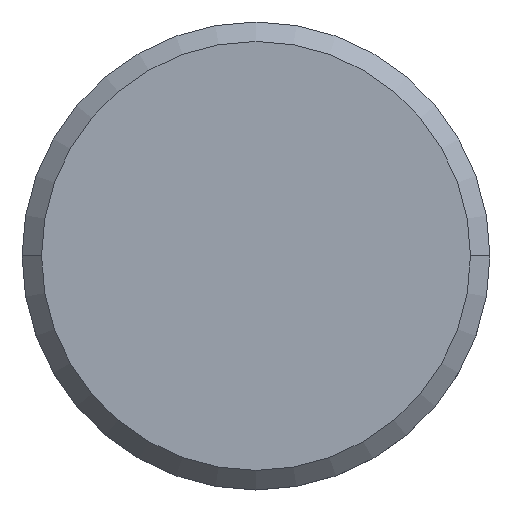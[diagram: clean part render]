
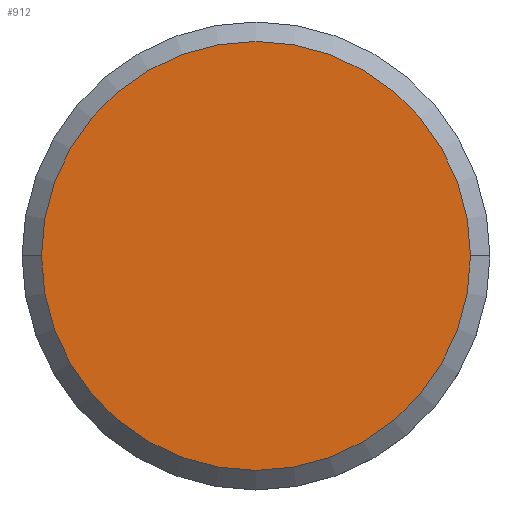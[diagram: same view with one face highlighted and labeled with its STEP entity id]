
A CAD part, top view. The second image highlights one B-rep face of the part: STEP entity #912.
In plain terms, the highlighted planar face has unit normal (0, 0, 1).
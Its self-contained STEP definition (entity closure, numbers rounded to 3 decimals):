
#16 = VERTEX_POINT ( 'NONE', #946 ) ;
#49 = PLANE ( 'NONE',  #301 ) ;
#86 = FACE_OUTER_BOUND ( 'NONE', #845, .T. ) ;
#111 = CARTESIAN_POINT ( 'NONE',  ( 11., 0., 0. ) ) ;
#123 = DIRECTION ( 'NONE',  ( -1., 0., 0. ) ) ;
#124 = EDGE_CURVE ( 'NONE', #16, #871, #283, .T. ) ;
#158 = CIRCLE ( 'NONE', #714, 11. ) ;
#173 = ORIENTED_EDGE ( 'NONE', *, *, #603, .T. ) ;
#231 = CARTESIAN_POINT ( 'NONE',  ( 0., 0., 0. ) ) ;
#283 = CIRCLE ( 'NONE', #847, 11. ) ;
#301 = AXIS2_PLACEMENT_3D ( 'NONE', #231, #313, #123 ) ;
#313 = DIRECTION ( 'NONE',  ( 0., 0., -1. ) ) ;
#342 = DIRECTION ( 'NONE',  ( -1., 0., 0. ) ) ;
#387 = ORIENTED_EDGE ( 'NONE', *, *, #124, .T. ) ;
#428 = CARTESIAN_POINT ( 'NONE',  ( 0., 0., 0. ) ) ;
#564 = DIRECTION ( 'NONE',  ( -1., 0., 0. ) ) ;
#588 = DIRECTION ( 'NONE',  ( 0., 0., 1. ) ) ;
#603 = EDGE_CURVE ( 'NONE', #871, #16, #158, .T. ) ;
#714 = AXIS2_PLACEMENT_3D ( 'NONE', #733, #588, #564 ) ;
#733 = CARTESIAN_POINT ( 'NONE',  ( 0., 0., 0. ) ) ;
#845 = EDGE_LOOP ( 'NONE', ( #387, #173 ) ) ;
#847 = AXIS2_PLACEMENT_3D ( 'NONE', #428, #887, #342 ) ;
#871 = VERTEX_POINT ( 'NONE', #111 ) ;
#887 = DIRECTION ( 'NONE',  ( 0., 0., 1. ) ) ;
#912 = ADVANCED_FACE ( 'NONE', ( #86 ), #49, .F. ) ;
#946 = CARTESIAN_POINT ( 'NONE',  ( -11., 0., 0. ) ) ;
